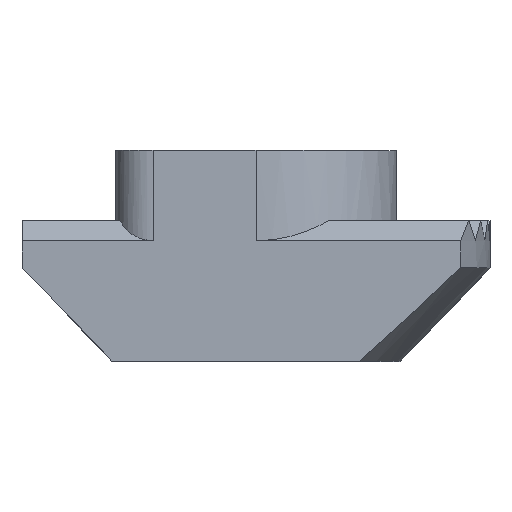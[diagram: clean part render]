
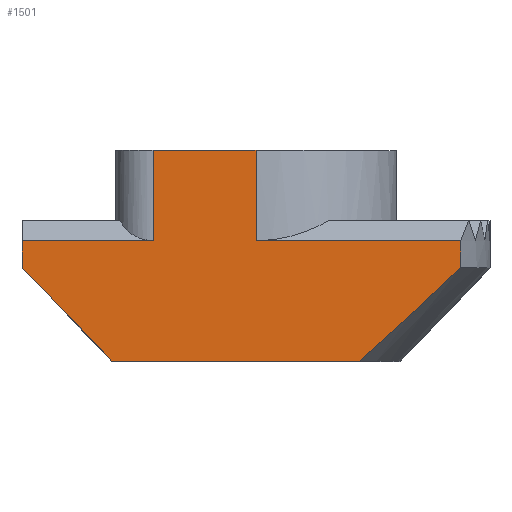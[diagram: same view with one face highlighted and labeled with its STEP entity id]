
A CAD part, top view. The second image highlights one B-rep face of the part: STEP entity #1501.
In plain terms, the highlighted planar face has unit normal (0, 0, 1).
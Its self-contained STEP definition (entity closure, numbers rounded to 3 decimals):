
#31 = VERTEX_POINT ( 'NONE', #749 ) ;
#71 = B_SPLINE_CURVE_WITH_KNOTS ( 'NONE', 3,
 ( #1053, #1431, #1166, #521 ),
 .UNSPECIFIED., .F., .F.,
 ( 4, 4 ),
 ( 0.006, 0.009 ),
 .UNSPECIFIED. ) ;
#90 = CARTESIAN_POINT ( 'NONE',  ( 0., 4.5, 3. ) ) ;
#115 = LINE ( 'NONE', #1302, #258 ) ;
#122 = CARTESIAN_POINT ( 'NONE',  ( 4.37, 2., 3. ) ) ;
#140 = VERTEX_POINT ( 'NONE', #1141 ) ;
#157 = EDGE_CURVE ( 'NONE', #717, #1535, #115, .T. ) ;
#175 = VECTOR ( 'NONE', #646, 1000. ) ;
#178 = AXIS2_PLACEMENT_3D ( 'NONE', #742, #1655, #879 ) ;
#188 = VERTEX_POINT ( 'NONE', #1456 ) ;
#198 = PLANE ( 'NONE',  #178 ) ;
#199 = ORIENTED_EDGE ( 'NONE', *, *, #760, .F. ) ;
#214 = ORIENTED_EDGE ( 'NONE', *, *, #841, .T. ) ;
#219 = VECTOR ( 'NONE', #1222, 1000. ) ;
#234 = EDGE_CURVE ( 'NONE', #1136, #803, #1582, .T. ) ;
#235 = VERTEX_POINT ( 'NONE', #1043 ) ;
#246 = LINE ( 'NONE', #1327, #1445 ) ;
#255 = VECTOR ( 'NONE', #904, 1000. ) ;
#258 = VECTOR ( 'NONE', #390, 1000. ) ;
#277 = CARTESIAN_POINT ( 'NONE',  ( -2.2, 4.5, 3. ) ) ;
#299 = ORIENTED_EDGE ( 'NONE', *, *, #358, .T. ) ;
#310 = LINE ( 'NONE', #90, #1459 ) ;
#327 = EDGE_CURVE ( 'NONE', #1230, #1535, #678, .T. ) ;
#331 = LINE ( 'NONE', #1664, #892 ) ;
#333 = DIRECTION ( 'NONE',  ( 0., -1., 0. ) ) ;
#349 = EDGE_CURVE ( 'NONE', #140, #1576, #331, .T. ) ;
#358 = EDGE_CURVE ( 'NONE', #717, #235, #1131, .T. ) ;
#366 = DIRECTION ( 'NONE',  ( 1., 0., 0. ) ) ;
#379 = CARTESIAN_POINT ( 'NONE',  ( -2.2, 4.5, 3. ) ) ;
#390 = DIRECTION ( 'NONE',  ( 1., 0., 0. ) ) ;
#393 = DIRECTION ( 'NONE',  ( -1., 0., 0. ) ) ;
#469 = ORIENTED_EDGE ( 'NONE', *, *, #327, .T. ) ;
#481 = DIRECTION ( 'NONE',  ( -1., 0., 0. ) ) ;
#521 = CARTESIAN_POINT ( 'NONE',  ( 4.37, 2., 3. ) ) ;
#522 = ORIENTED_EDGE ( 'NONE', *, *, #349, .F. ) ;
#535 = ORIENTED_EDGE ( 'NONE', *, *, #1216, .T. ) ;
#539 = ORIENTED_EDGE ( 'NONE', *, *, #883, .T. ) ;
#549 = LINE ( 'NONE', #821, #219 ) ;
#616 = CARTESIAN_POINT ( 'NONE',  ( -5., 2.571, 3. ) ) ;
#646 = DIRECTION ( 'NONE',  ( 0., -1., 0. ) ) ;
#657 = CARTESIAN_POINT ( 'NONE',  ( 4.374, 3., 3. ) ) ;
#678 = LINE ( 'NONE', #379, #255 ) ;
#717 = VERTEX_POINT ( 'NONE', #616 ) ;
#742 = CARTESIAN_POINT ( 'NONE',  ( 0., 4.5, 3. ) ) ;
#749 = CARTESIAN_POINT ( 'NONE',  ( 0., 2.571, 3. ) ) ;
#760 = EDGE_CURVE ( 'NONE', #31, #1136, #901, .T. ) ;
#762 = VERTEX_POINT ( 'NONE', #122 ) ;
#786 = CARTESIAN_POINT ( 'NONE',  ( -5., 2., 3. ) ) ;
#803 = VERTEX_POINT ( 'NONE', #1307 ) ;
#821 = CARTESIAN_POINT ( 'NONE',  ( 0., 4.5, 3. ) ) ;
#841 = EDGE_CURVE ( 'NONE', #235, #1576, #1021, .T. ) ;
#858 = CARTESIAN_POINT ( 'NONE',  ( -2.2, 2.571, 3. ) ) ;
#879 = DIRECTION ( 'NONE',  ( 1., 0., 0. ) ) ;
#883 = EDGE_CURVE ( 'NONE', #188, #1230, #549, .T. ) ;
#890 = ORIENTED_EDGE ( 'NONE', *, *, #234, .F. ) ;
#892 = VECTOR ( 'NONE', #481, 1000. ) ;
#897 = ORIENTED_EDGE ( 'NONE', *, *, #1258, .F. ) ;
#901 = LINE ( 'NONE', #1579, #1281 ) ;
#904 = DIRECTION ( 'NONE',  ( 0., -1., 0. ) ) ;
#1002 = CARTESIAN_POINT ( 'NONE',  ( 4.374, 2.571, 3. ) ) ;
#1021 = LINE ( 'NONE', #786, #1630 ) ;
#1043 = CARTESIAN_POINT ( 'NONE',  ( -5., 2., 3. ) ) ;
#1053 = CARTESIAN_POINT ( 'NONE',  ( 2.202, 0., 3. ) ) ;
#1122 = DIRECTION ( 'NONE',  ( 0., -1., 0. ) ) ;
#1131 = LINE ( 'NONE', #1513, #1170 ) ;
#1136 = VERTEX_POINT ( 'NONE', #1002 ) ;
#1141 = CARTESIAN_POINT ( 'NONE',  ( 2.202, 0., 3. ) ) ;
#1166 = CARTESIAN_POINT ( 'NONE',  ( 3.659, 1.32, 3. ) ) ;
#1170 = VECTOR ( 'NONE', #1122, 1000. ) ;
#1216 = EDGE_CURVE ( 'NONE', #140, #762, #71, .T. ) ;
#1222 = DIRECTION ( 'NONE',  ( -1., 0., 0. ) ) ;
#1230 = VERTEX_POINT ( 'NONE', #277 ) ;
#1241 = EDGE_LOOP ( 'NONE', ( #522, #535, #897, #890, #199, #1309, #539, #469, #1685, #299, #214 ) ) ;
#1258 = EDGE_CURVE ( 'NONE', #803, #762, #246, .T. ) ;
#1281 = VECTOR ( 'NONE', #366, 1000. ) ;
#1283 = FACE_OUTER_BOUND ( 'NONE', #1241, .T. ) ;
#1302 = CARTESIAN_POINT ( 'NONE',  ( -5., 2.571, 3. ) ) ;
#1303 = CARTESIAN_POINT ( 'NONE',  ( -3.078, 0., 3. ) ) ;
#1307 = CARTESIAN_POINT ( 'NONE',  ( 4.374, 2., 3. ) ) ;
#1309 = ORIENTED_EDGE ( 'NONE', *, *, #1433, .F. ) ;
#1327 = CARTESIAN_POINT ( 'NONE',  ( -5., 2., 3. ) ) ;
#1431 = CARTESIAN_POINT ( 'NONE',  ( 2.94, 0.649, 3. ) ) ;
#1433 = EDGE_CURVE ( 'NONE', #188, #31, #310, .T. ) ;
#1445 = VECTOR ( 'NONE', #393, 1000. ) ;
#1456 = CARTESIAN_POINT ( 'NONE',  ( 0., 4.5, 3. ) ) ;
#1459 = VECTOR ( 'NONE', #333, 1000. ) ;
#1501 = ADVANCED_FACE ( 'NONE', ( #1283 ), #198, .T. ) ;
#1513 = CARTESIAN_POINT ( 'NONE',  ( -5., 3., 3. ) ) ;
#1535 = VERTEX_POINT ( 'NONE', #858 ) ;
#1550 = DIRECTION ( 'NONE',  ( 0.693, -0.721, 0. ) ) ;
#1576 = VERTEX_POINT ( 'NONE', #1303 ) ;
#1579 = CARTESIAN_POINT ( 'NONE',  ( -5., 2.571, 3. ) ) ;
#1582 = LINE ( 'NONE', #657, #175 ) ;
#1630 = VECTOR ( 'NONE', #1550, 1000. ) ;
#1655 = DIRECTION ( 'NONE',  ( 0., 0., 1. ) ) ;
#1664 = CARTESIAN_POINT ( 'NONE',  ( 0., 0., 3. ) ) ;
#1685 = ORIENTED_EDGE ( 'NONE', *, *, #157, .F. ) ;
